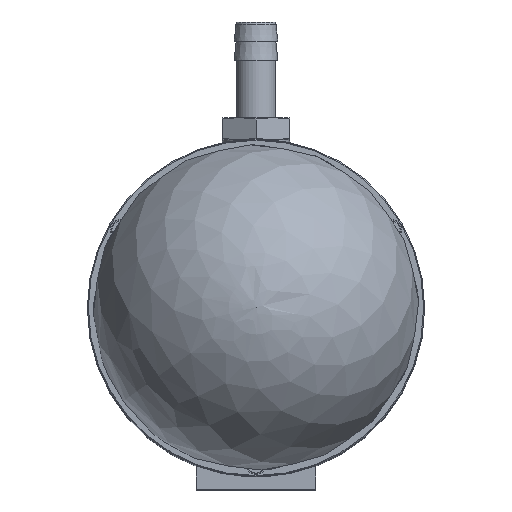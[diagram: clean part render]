
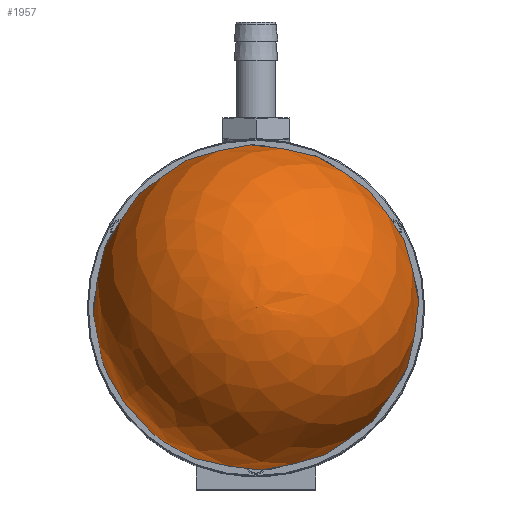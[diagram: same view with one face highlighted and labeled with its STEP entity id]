
A CAD part, top view. The second image highlights one B-rep face of the part: STEP entity #1957.
In plain terms, the highlighted free-form (B-spline) face has degree [2, 2] with [5, 9] control points.
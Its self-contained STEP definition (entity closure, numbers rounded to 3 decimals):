
#1893=CARTESIAN_POINT('',(82.436,-11.427,0.));
#1894=CARTESIAN_POINT('',(81.755,-11.427,-35.43));
#1895=CARTESIAN_POINT('',(46.696,-11.427,-40.583));
#1896=CARTESIAN_POINT('',(11.636,-11.427,-45.735));
#1897=CARTESIAN_POINT('',(0.79,-11.427,-12.));
#1898=CARTESIAN_POINT('',(82.436,-11.427,0.));
#1899=CARTESIAN_POINT('',(81.755,24.003,-35.43));
#1900=CARTESIAN_POINT('',(46.696,29.156,-40.583));
#1901=CARTESIAN_POINT('',(11.636,34.308,-45.735));
#1902=CARTESIAN_POINT('',(0.79,0.573,-12.));
#1903=CARTESIAN_POINT('',(82.436,-11.427,0.));
#1904=CARTESIAN_POINT('',(81.755,24.003,0.));
#1905=CARTESIAN_POINT('',(46.696,29.156,0.));
#1906=CARTESIAN_POINT('',(11.636,34.308,0.));
#1907=CARTESIAN_POINT('',(0.79,0.573,0.));
#1908=CARTESIAN_POINT('',(82.436,-11.427,0.));
#1909=CARTESIAN_POINT('',(81.755,24.003,35.43));
#1910=CARTESIAN_POINT('',(46.696,29.156,40.583));
#1911=CARTESIAN_POINT('',(11.636,34.308,45.735));
#1912=CARTESIAN_POINT('',(0.79,0.573,12.));
#1913=CARTESIAN_POINT('',(82.436,-11.427,0.));
#1914=CARTESIAN_POINT('',(81.755,-11.427,35.43));
#1915=CARTESIAN_POINT('',(46.696,-11.427,40.583));
#1916=CARTESIAN_POINT('',(11.636,-11.427,45.735));
#1917=CARTESIAN_POINT('',(0.79,-11.427,12.));
#1918=CARTESIAN_POINT('',(82.436,-11.427,0.));
#1919=CARTESIAN_POINT('',(81.755,-46.857,35.43));
#1920=CARTESIAN_POINT('',(46.696,-52.01,40.583));
#1921=CARTESIAN_POINT('',(11.636,-57.162,45.735));
#1922=CARTESIAN_POINT('',(0.79,-23.427,12.));
#1923=CARTESIAN_POINT('',(82.436,-11.427,0.));
#1924=CARTESIAN_POINT('',(81.755,-46.857,0.));
#1925=CARTESIAN_POINT('',(46.696,-52.01,0.));
#1926=CARTESIAN_POINT('',(11.636,-57.162,0.));
#1927=CARTESIAN_POINT('',(0.79,-23.427,0.));
#1928=CARTESIAN_POINT('',(82.436,-11.427,0.));
#1929=CARTESIAN_POINT('',(81.755,-46.857,-35.43));
#1930=CARTESIAN_POINT('',(46.696,-52.01,-40.583));
#1931=CARTESIAN_POINT('',(11.636,-57.162,-45.735));
#1932=CARTESIAN_POINT('',(0.79,-23.427,-12.));
#1933=CARTESIAN_POINT('',(82.436,-11.427,0.));
#1934=CARTESIAN_POINT('',(81.755,-11.427,-35.43));
#1935=CARTESIAN_POINT('',(46.696,-11.427,-40.583));
#1936=CARTESIAN_POINT('',(11.636,-11.427,-45.735));
#1937=CARTESIAN_POINT('',(0.79,-11.427,-12.));
#1945=(BOUNDED_SURFACE()B_SPLINE_SURFACE(2,2,((#1893,#1898,#1903,#1908,#1913,#1918,#1923,#1928,#1933),(#1894,#1899,#1904,#1909,#1914,#1919,#1924,#1929,#1934),(#1895,#1900,#1905,#1910,#1915,#1920,#1925,#1930,#1935),(#1896,#1901,#1906,#1911,#1916,#1921,#1926,#1931,#1936),(#1897,#1902,#1907,#1912,#1917,#1922,#1927,#1932,#1937)),.UNSPECIFIED.,.F.,.T.,.U.)B_SPLINE_SURFACE_WITH_KNOTS((3,2,3),(3,2,2,2,3),(-1.552,-0.146,1.26),(0.0,1.571,3.142,4.712,6.283),.UNSPECIFIED.)GEOMETRIC_REPRESENTATION_ITEM()RATIONAL_B_SPLINE_SURFACE(((1.0,0.707,1.0,0.707,1.0,0.707,1.0,0.707,1.0),(0.763,0.54,0.763,0.54,0.763,0.54,0.763,0.54,0.763),(1.0,0.707,1.0,0.707,1.0,0.707,1.0,0.707,1.0),(0.763,0.54,0.763,0.54,0.763,0.54,0.763,0.54,0.763),(1.0,0.707,1.0,0.707,1.0,0.707,1.0,0.707,1.0)))REPRESENTATION_ITEM('')SURFACE());
#1946=CARTESIAN_POINT('',(0.79,0.573,0.0));
#1947=VERTEX_POINT('',#1946);
#1948=CARTESIAN_POINT('',(0.79,-11.427,0.0));
#1949=DIRECTION('',(1.0,0.0,0.0));
#1950=DIRECTION('',(0.0,1.0,0.0));
#1951=AXIS2_PLACEMENT_3D('',#1948,#1949,#1950);
#1952=CIRCLE('',#1951,12.);
#1953=EDGE_CURVE('',#1947,#1947,#1952,.T.);
#1954=ORIENTED_EDGE('',*,*,#1953,.F.);
#1955=EDGE_LOOP('',(#1954));
#1956=FACE_OUTER_BOUND('',#1955,.T.);
#1957=ADVANCED_FACE('',(#1956),#1945,.T.);
